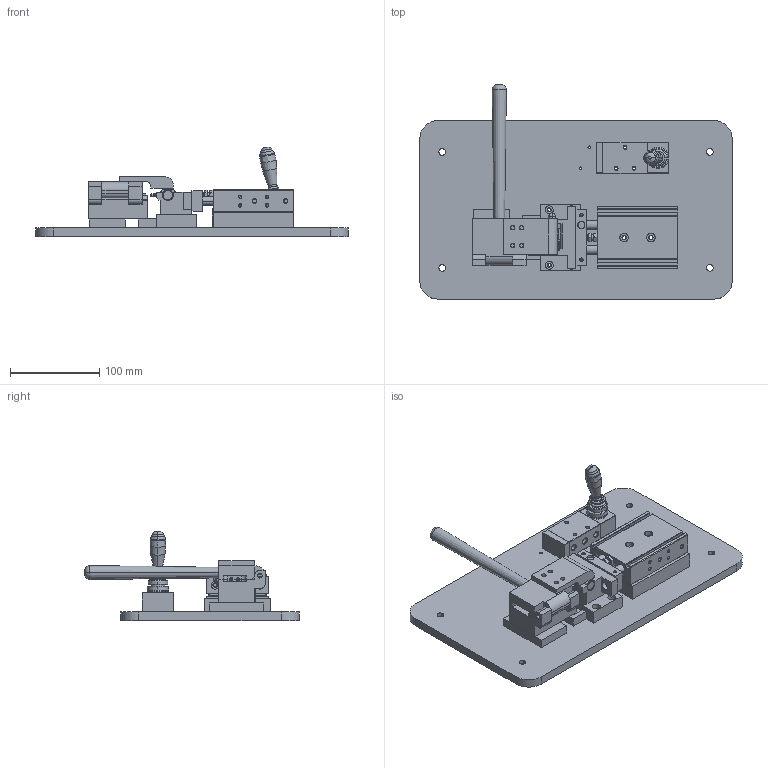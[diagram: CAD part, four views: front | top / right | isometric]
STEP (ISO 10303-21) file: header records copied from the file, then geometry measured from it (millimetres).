
FILE_DESCRIPTION(('CATIA V5 STEP Exchange'),'2;1');
FILE_NAME('E:\王迁\03-2021年项目\00-改善类\插管工装-2020.11.28\国产-速降阀插接治具图纸资料\国产速降阀治具方案.stp','2021-03-12T01:44:24+00:00',('none'),('none'),'CATIA Version 5 Release 20 GA (IN-10)','CATIA V5 STEP AP203','none');
FILE_SCHEMA(('CONFIG_CONTROL_DESIGN'));
Length unit declared in the file: millimetre
Products named in the file (4): 产品1.2; TR20X15S(0)+(); 4H21006(PA); 速降阀
Assembly tree (26 placements, depth 3):
  产品1.2
    #58
    #293
    #2628  x2
    #3151
    TR20X15S(0)+()
      #3594
      #10430
    #12944
    4H21006(PA)
      #13257
      #13280
    速降阀
      #17355
      #24572  x2
      #25463
      #27467
      #29153
      #29276
    #33092
    #34949
    #36576
    #38017
    #39058
    #39642
Bounding box: 350 x 240 x 100.34 mm (x, y, z)
Volume: 1272114.1 mm3; surface area: 318010.8 mm2
Topology: 22 solids, 22 shells, 1165 faces, 3074 edges, 2028 vertices
Faces by surface type: cylinder 491, plane 420, cone 182, torus 37, bspline 16, extrusion 8, revolution 6, sphere 5
Entity records: 40120 total; most frequent: CARTESIAN_POINT 13132, ORIENTED_EDGE 5894, DIRECTION 4509, EDGE_CURVE 2947, AXIS2_PLACEMENT_3D 2151, VERTEX_POINT 1956, VECTOR 1401, LINE 1393
